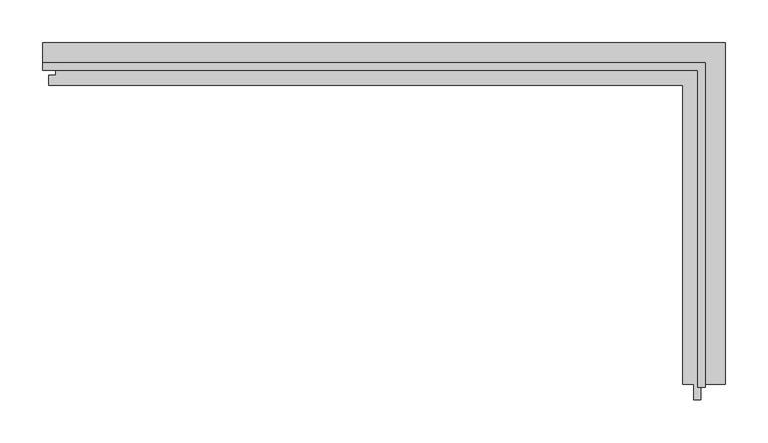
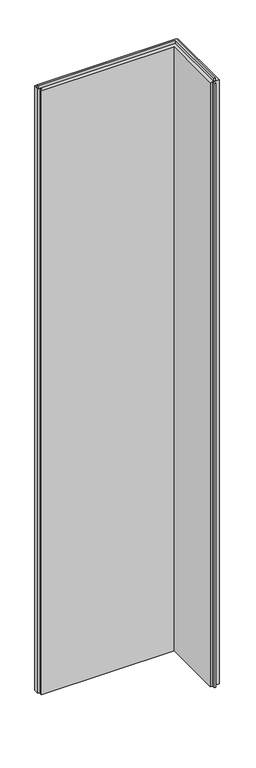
"""IFC4 building model written with IfcOpenShell, lengths in millimetres: plate geometry, Trimo_Qbiss Screen_L Corner Panel-VERTICAL : HR - FB."""

from ifc_helpers import new_model, si_unit, frame, origin, place, context, project, spatial, polyline, outline, extrude, source, transform, mapped, element, save


def plate_00f3da7d(model_context):
    return source(origin(), model_context, "Body", "SweptSolid", [
        extrude(outline(polyline([(-337.0, 93.9), (-337.0, 102.6), (439.6, 102.6), (439.6, -278.0), (430.9, -278.0), (430.9, 93.9), (-337.0, 93.9)])), frame((0.0, 0.0, 3590.5), z_axis=(0.0, 0.0, 1.0), x_axis=(1.0, 0.0, 0.0)), (0.0, 0.0, 1.0), 19.0),
        extrude(outline(polyline([(463.0, -274.0), (434.0, -274.0), (434.0, -292.5), (426.0, -292.5), (426.0, -274.0), (413.0, -274.0), (413.0, 76.0), (-330.0, 76.0), (-330.0, 88.0), (-321.5, 88.0), (-321.5, 98.0), (-337.0, 98.0), (-337.0, 126.0), (463.0, 126.0), (463.0, -274.0)])), frame((0.0, 0.0, 12.5), z_axis=(0.0, 0.0, 1.0), x_axis=(1.0, 0.0, 0.0)), (0.0, 0.0, 1.0), 3575.0),
    ])


if __name__ == "__main__":
    model = new_model("IFC4")
    model_context = context("Model", 3, world=origin())
    ifc_project = project(units=[si_unit("LENGTHUNIT", "METRE", prefix="MILLI")], contexts=[model_context])
    site = spatial("IfcSite", under=ifc_project)
    building = spatial("IfcBuilding", under=site)
    placement = place(None, origin())
    plate_shape = plate_00f3da7d(model_context)
    element("IfcPlate", 1, ObjectType="Trimo_Qbiss Screen_L Corner Panel-VERTICAL : HR - FB", at=placement, inside=building, context=model_context, shape_type="MappedRepresentation", body=[
        mapped(plate_shape, transform((0.0, 0.0, 0.0), x_axis=(1.0, 0.0, 0.0), y_axis=(0.0, 1.0, 0.0), z_axis=(0.0, 0.0, 1.0))),
    ])
    save(model, "model.ifc")
